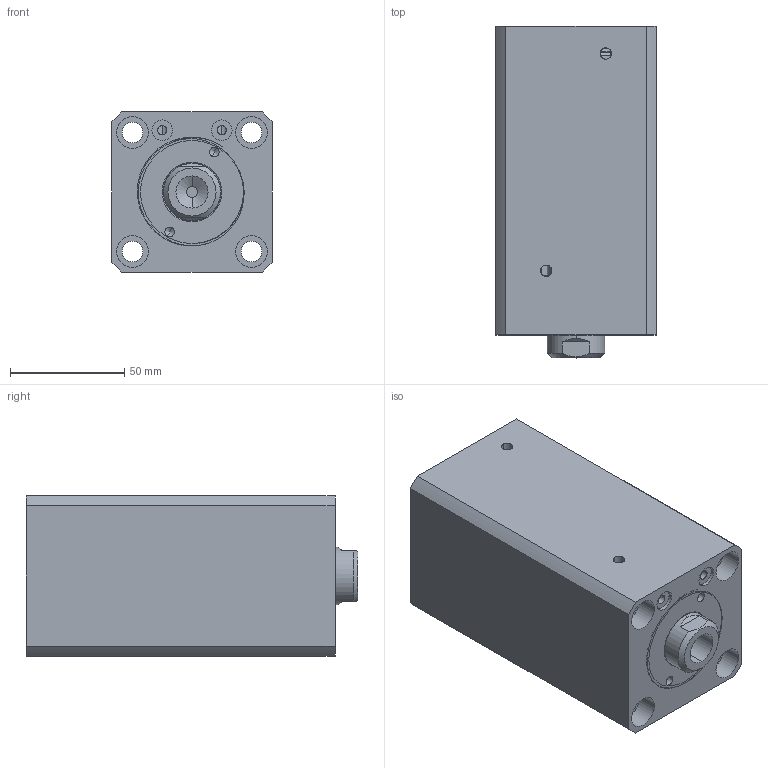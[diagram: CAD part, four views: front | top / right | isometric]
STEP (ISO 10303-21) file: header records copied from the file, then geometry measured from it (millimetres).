
FILE_DESCRIPTION (( 'STEP AP214' ), '1' );
FILE_NAME ('chtb-sdma40x80n_asm.STEP', '2018-06-06T06:36:22', ( 'Windows' ), ( 'Microsoft' ), 'SwSTEP 2.0', 'SolidWorks 2015', '' );
FILE_SCHEMA (( 'AUTOMOTIVE_DESIGN' ));
Length unit declared in the file: millimetre
Products named in the file (4): CHTB-SD40QG; CHTB-SDMA40X80NBT; CHTB-SD40X80NHSG; chtb-sdma40x80n_asm
Assembly tree (3 placements, depth 2):
  chtb-sdma40x80n_asm
    CHTB-SD40X80NHSG
    CHTB-SDMA40X80NBT
    CHTB-SD40QG
Bounding box: 70 x 145 x 70 mm (x, y, z)
Volume: 546190.6 mm3; surface area: 108208.5 mm2
Topology: 3 solids, 3 shells, 157 faces, 413 edges, 274 vertices
Faces by surface type: cylinder 84, plane 36, torus 14, bspline 14, cone 9
Entity records: 10139 total; most frequent: CARTESIAN_POINT 6157, ORIENTED_EDGE 814, DIRECTION 768, EDGE_CURVE 407, AXIS2_PLACEMENT_3D 326, VERTEX_POINT 274, EDGE_LOOP 193, CIRCLE 177
